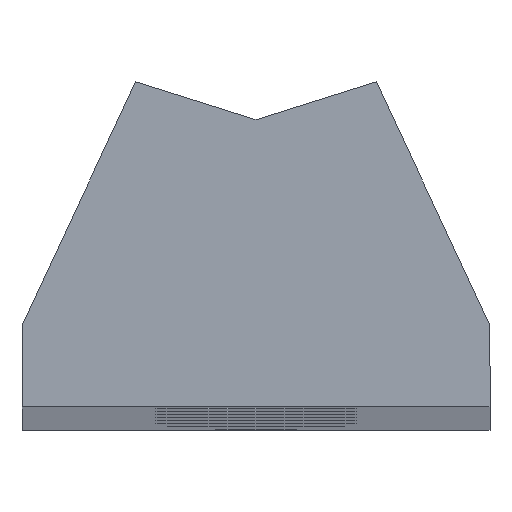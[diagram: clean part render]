
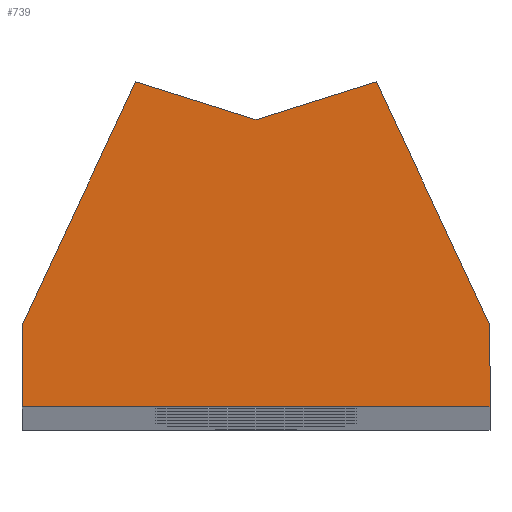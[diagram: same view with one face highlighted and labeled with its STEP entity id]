
A CAD part, top view. The second image highlights one B-rep face of the part: STEP entity #739.
In plain terms, the highlighted planar face has unit normal (0, 0, 1).
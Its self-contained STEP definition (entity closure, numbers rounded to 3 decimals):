
#6 = LINE ( 'NONE', #661, #134 ) ;
#13 = ORIENTED_EDGE ( 'NONE', *, *, #554, .T. ) ;
#74 = LINE ( 'NONE', #275, #132 ) ;
#87 = VERTEX_POINT ( 'NONE', #178 ) ;
#96 = DIRECTION ( 'NONE',  ( 0., -1., 0. ) ) ;
#126 = DIRECTION ( 'NONE',  ( -0.423, 0.906, 0. ) ) ;
#132 = VECTOR ( 'NONE', #183, 1000. ) ;
#134 = VECTOR ( 'NONE', #804, 1000. ) ;
#148 = ORIENTED_EDGE ( 'NONE', *, *, #628, .T. ) ;
#152 = CARTESIAN_POINT ( 'NONE',  ( 5.4, 14.596, 299.75 ) ) ;
#173 = VERTEX_POINT ( 'NONE', #608 ) ;
#178 = CARTESIAN_POINT ( 'NONE',  ( 10.5, 0., 299.75 ) ) ;
#183 = DIRECTION ( 'NONE',  ( 0., 1., 0. ) ) ;
#188 = ORIENTED_EDGE ( 'NONE', *, *, #750, .T. ) ;
#195 = VECTOR ( 'NONE', #401, 1000. ) ;
#224 = VECTOR ( 'NONE', #96, 1000. ) ;
#238 = CARTESIAN_POINT ( 'NONE',  ( 10.5, 3.659, 299.75 ) ) ;
#275 = CARTESIAN_POINT ( 'NONE',  ( 10.5, 0., 299.75 ) ) ;
#335 = FACE_OUTER_BOUND ( 'NONE', #859, .T. ) ;
#345 = VERTEX_POINT ( 'NONE', #238 ) ;
#348 = LINE ( 'NONE', #653, #224 ) ;
#351 = CARTESIAN_POINT ( 'NONE',  ( 0., 0., 299.75 ) ) ;
#375 = EDGE_CURVE ( 'NONE', #455, #939, #1043, .T. ) ;
#394 = VECTOR ( 'NONE', #565, 1000. ) ;
#401 = DIRECTION ( 'NONE',  ( -0.423, -0.906, 0. ) ) ;
#440 = EDGE_CURVE ( 'NONE', #87, #345, #74, .T. ) ;
#455 = VERTEX_POINT ( 'NONE', #574 ) ;
#465 = VERTEX_POINT ( 'NONE', #733 ) ;
#479 = EDGE_CURVE ( 'NONE', #874, #173, #348, .T. ) ;
#485 = CARTESIAN_POINT ( 'NONE',  ( -10.5, 3.659, 299.75 ) ) ;
#554 = EDGE_CURVE ( 'NONE', #345, #465, #851, .T. ) ;
#555 = ORIENTED_EDGE ( 'NONE', *, *, #848, .T. ) ;
#565 = DIRECTION ( 'NONE',  ( -0.954, 0.301, 0. ) ) ;
#570 = DIRECTION ( 'NONE',  ( 1., 0., 0. ) ) ;
#571 = ORIENTED_EDGE ( 'NONE', *, *, #375, .T. ) ;
#574 = CARTESIAN_POINT ( 'NONE',  ( 0., 12.893, 299.75 ) ) ;
#608 = CARTESIAN_POINT ( 'NONE',  ( -10.5, 0., 299.75 ) ) ;
#627 = LINE ( 'NONE', #152, #901 ) ;
#628 = EDGE_CURVE ( 'NONE', #465, #455, #627, .T. ) ;
#653 = CARTESIAN_POINT ( 'NONE',  ( -10.5, 3.659, 299.75 ) ) ;
#661 = CARTESIAN_POINT ( 'NONE',  ( -10.5, 0., 299.75 ) ) ;
#682 = ORIENTED_EDGE ( 'NONE', *, *, #479, .T. ) ;
#683 = CARTESIAN_POINT ( 'NONE',  ( 10.5, 3.659, 299.75 ) ) ;
#731 = PLANE ( 'NONE',  #792 ) ;
#733 = CARTESIAN_POINT ( 'NONE',  ( 5.4, 14.596, 299.75 ) ) ;
#739 = ADVANCED_FACE ( 'NONE', ( #335 ), #731, .T. ) ;
#750 = EDGE_CURVE ( 'NONE', #173, #87, #6, .T. ) ;
#782 = DIRECTION ( 'NONE',  ( -0.954, -0.301, 0. ) ) ;
#792 = AXIS2_PLACEMENT_3D ( 'NONE', #351, #818, #570 ) ;
#804 = DIRECTION ( 'NONE',  ( 1., 0., 0. ) ) ;
#818 = DIRECTION ( 'NONE',  ( 0., 0., 1. ) ) ;
#830 = VECTOR ( 'NONE', #126, 1000. ) ;
#848 = EDGE_CURVE ( 'NONE', #939, #874, #1046, .T. ) ;
#851 = LINE ( 'NONE', #683, #830 ) ;
#859 = EDGE_LOOP ( 'NONE', ( #571, #555, #682, #188, #865, #13, #148 ) ) ;
#865 = ORIENTED_EDGE ( 'NONE', *, *, #440, .T. ) ;
#874 = VERTEX_POINT ( 'NONE', #485 ) ;
#895 = CARTESIAN_POINT ( 'NONE',  ( -5.4, 14.596, 299.75 ) ) ;
#901 = VECTOR ( 'NONE', #782, 1000. ) ;
#939 = VERTEX_POINT ( 'NONE', #895 ) ;
#961 = CARTESIAN_POINT ( 'NONE',  ( 0., 12.893, 299.75 ) ) ;
#969 = CARTESIAN_POINT ( 'NONE',  ( -5.4, 14.596, 299.75 ) ) ;
#1043 = LINE ( 'NONE', #961, #394 ) ;
#1046 = LINE ( 'NONE', #969, #195 ) ;
